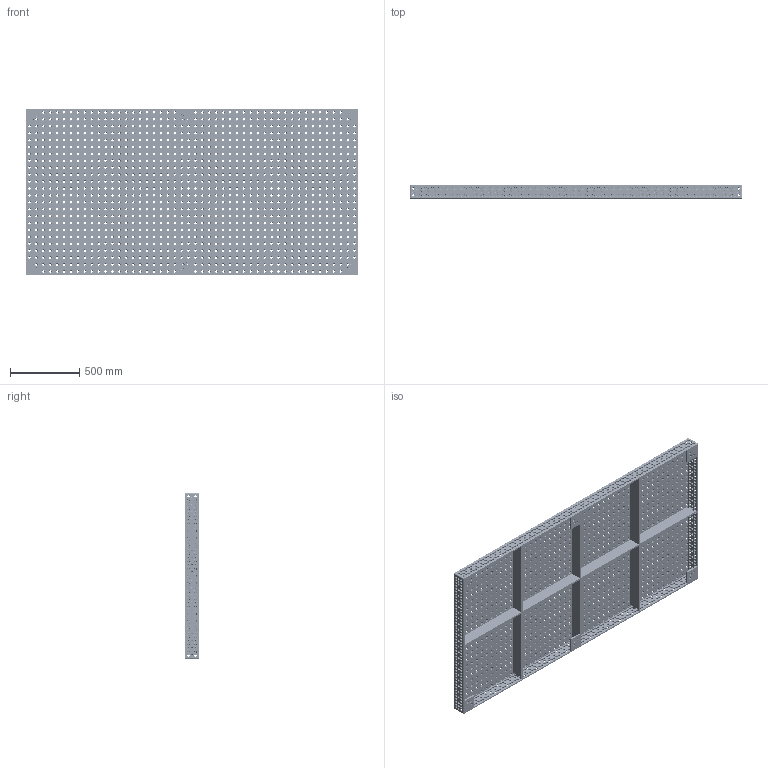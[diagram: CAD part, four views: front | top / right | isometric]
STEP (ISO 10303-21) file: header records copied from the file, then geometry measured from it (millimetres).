
FILE_DESCRIPTION (( 'STEP AP203' ), '1' );
FILE_NAME ('160030.X7D.T1 - 16003131_16003131_16003132_16001989_______.step', '2022-06-07T13:16:49', ( '' ), ( '' ), 'SwSTEP 2.0', 'SolidWorks 2020', '' );
FILE_SCHEMA (( 'CONFIG_CONTROL_DESIGN' ));
Products named in the file (1): 160030.X7D.T1 - 16003131_16003131_16003132_16001989_______
Bounding box: 2400 x 100 x 1200 mm (x, y, z)
Volume: 43842537 mm3; surface area: 8400383.3 mm2
Topology: 1 solids, 1 shells, 11460 faces, 26840 edges, 15368 vertices
Faces by surface type: cone 3820, cylinder 3788, torus 3748, plane 96, bspline 8
Entity records: 338041 total; most frequent: DIRECTION 68622, CARTESIAN_POINT 54909, ORIENTED_EDGE 53680, AXIS2_PLACEMENT_3D 30345, EDGE_CURVE 26840, CIRCLE 18892, VERTEX_POINT 15368, EDGE_LOOP 15258
